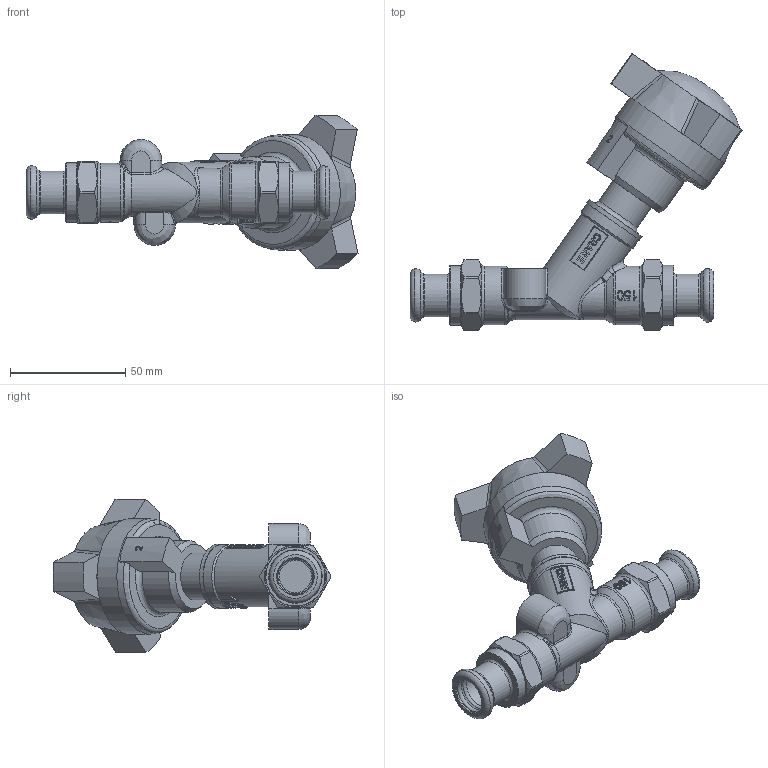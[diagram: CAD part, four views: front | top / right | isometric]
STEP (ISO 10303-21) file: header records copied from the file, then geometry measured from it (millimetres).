
FILE_DESCRIPTION((''),'2;1');
FILE_NAME('P:\Fastrack\53972_CRANE 3D\Push Fit\D921\D921-PF_15mm\D921-PF_15mm.stp','2011-08-23T15:48:13',('btaylor'),(''),'Autodesk Inventor 2008','Autodesk Inventor 2008','');
FILE_SCHEMA(('AUTOMOTIVE_DESIGN { 1 0 10303 214 1 1 1 1 }'));
Length unit declared in the file: millimetre
Products named in the file (1): D921-PF_15mm
Bounding box: 143.89 x 120.36 x 66.44 mm (x, y, z)
Volume: 163421.8 mm3; surface area: 31997.1 mm2
Topology: 1 solids, 3 shells, 751 faces, 1999 edges, 1310 vertices
Faces by surface type: bspline 334, plane 301, cylinder 72, cone 33, torus 11
Full cylindrical faces by diameter (mm): 15.2 x2, 15.75 x2, 18.45 x2, 20.3 x1, 25.4 x2, 26 x2, 26.4 x1, 27.5 x1, 28 x1, 50 x1
Entity records: 66806 total; most frequent: CARTESIAN_POINT 50583, ORIENTED_EDGE 3862, DIRECTION 2268, EDGE_CURVE 1931, VERTEX_POINT 1297, VECTOR 916, LINE 916, EDGE_LOOP 862
